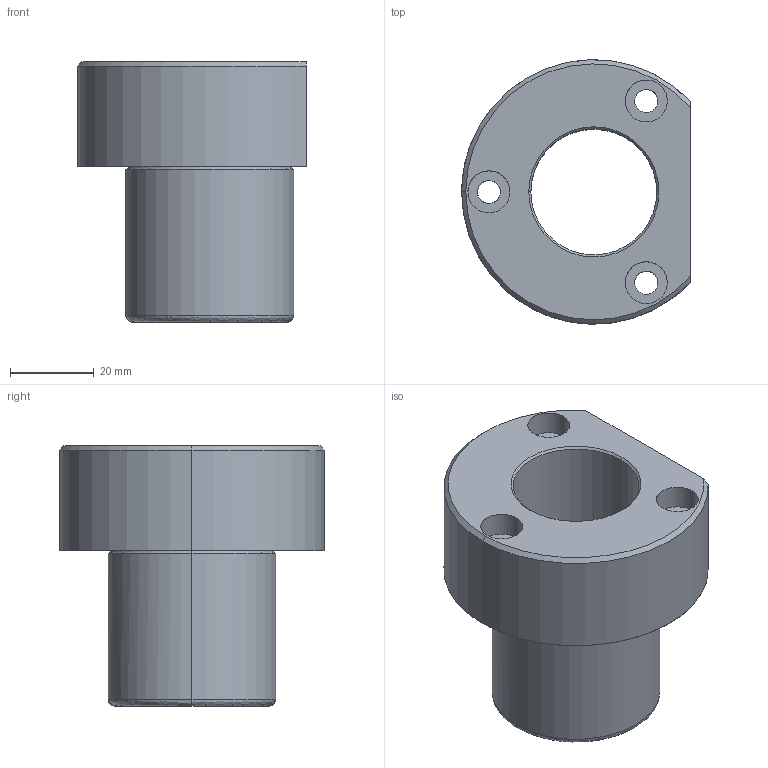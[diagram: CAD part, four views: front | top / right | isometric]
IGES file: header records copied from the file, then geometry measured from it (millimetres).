
Start section: START RECORD GO HERE.
Global section: file name: 737-24.igs; native system: DASSAULT SYSTEMES CATIA V5 R20 - www.3ds.com; preprocessor: CATIA Version 5 Release 20 ; author: Utente; organization: NB04-ASUS; date: 20210117.180608; units: millimetre
Bounding box: 54.5 x 62.99 x 62 mm (x, y, z)
Surface area: 21014.4 mm2 (no closed solid volume)
Topology: 0 solids, 0 shells, 37 faces, 164 edges, 164 vertices
Faces by surface type: revolution 30, plane 7
